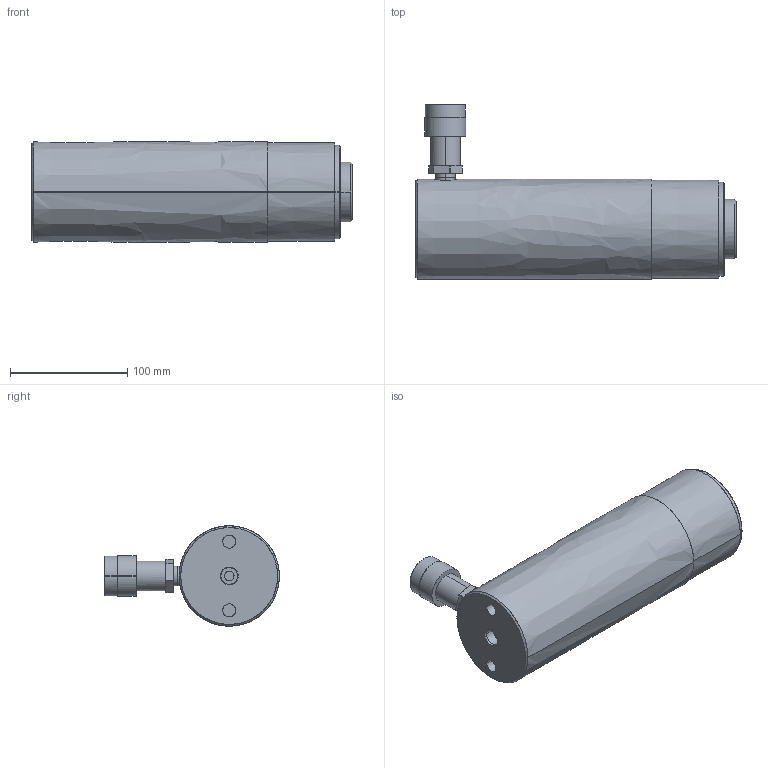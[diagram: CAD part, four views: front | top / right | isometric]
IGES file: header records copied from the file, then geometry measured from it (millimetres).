
Start section:  PTC IGES file: RC-256.igs
Global section: file name: RC-256.igs; native system: Creo Parametric by PTC Inc.; preprocessor: 2018400; author: mike.ward; organization: Unknown; date: 20190903.093636; units: inch
Bounding box: 273.66 x 149.22 x 85.7 mm (x, y, z)
Surface area: 187182.7 mm2 (no closed solid volume)
Topology: 0 solids, 0 shells, 195 faces, 846 edges, 846 vertices
Faces by surface type: revolution 136, bspline 59
